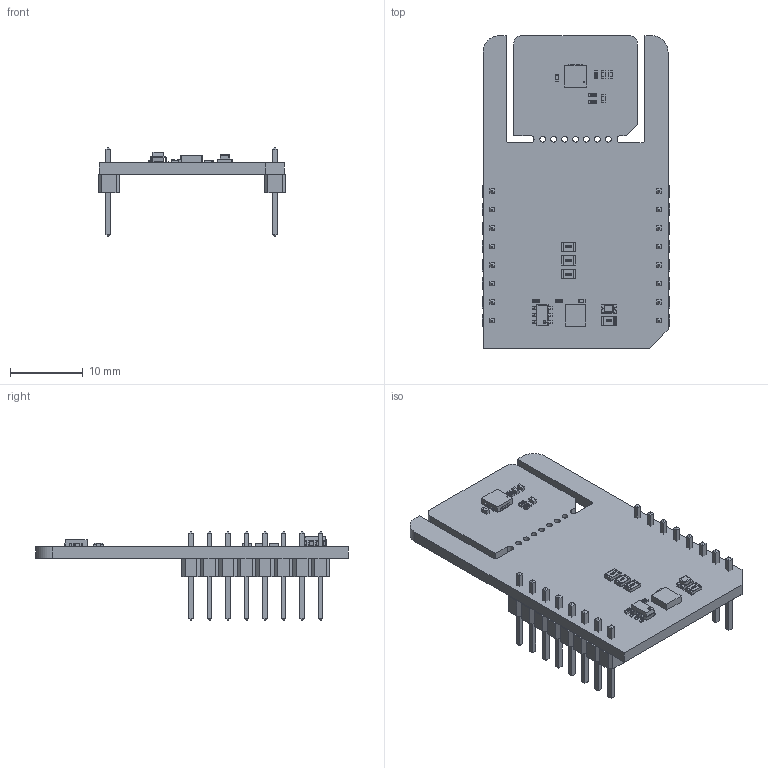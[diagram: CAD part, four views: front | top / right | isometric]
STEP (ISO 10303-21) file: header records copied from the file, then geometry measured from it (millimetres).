
FILE_DESCRIPTION(('Open CASCADE Model'),'2;1');
FILE_NAME('Open CASCADE Shape Model','2025-07-29T12:33:48',('Author'),( 'Open CASCADE'),'Open CASCADE STEP processor 7.5','Open CASCADE 7.5' ,'Unknown');
FILE_SCHEMA(('AUTOMOTIVE_DESIGN { 1 0 10303 214 1 1 1 1 }'));
Length unit declared in the file: millimetre
Products named in the file (36): PCB; Board; Open CASCADE STEP translator 7.5 1.1.1; C2; User Library-SMD CAPACITOR0402; JP3; User Library-R_0805; R6; User Library-R_0402; C5; R5; R2; MBD1; Header 1x8; Free-Models; 1240637040; User_Library-PinHeaderX5-1_PinHeaderX5_Body_1; User_Library-PinHeaderX5-1_PinHeaderX5_Pins_1; U2; User Library-SOT23-6-2; U1; 7528132352; Extruded; C1; LD1; led_0805_green; R1; R3; C4; C3; JP1; JP2; R4; U3; 7304689472
Assembly tree (48 placements, depth 7):
  PCB
    Board
      Open CASCADE STEP translator 7.5 1.1.1
    C2
      User Library-SMD CAPACITOR0402
    JP3
      User Library-R_0805
    R6
      User Library-R_0402
    C5
      User Library-SMD CAPACITOR0402
    R5
      User Library-R_0402
    R2
      User Library-R_0402
    MBD1
      Header 1x8  x2
        PCB
          Free-Models
            1240637040  x2
              User_Library-PinHeaderX5-1_PinHeaderX5_Body_1
              User_Library-PinHeaderX5-1_PinHeaderX5_Pins_1
    U2
      User Library-SOT23-6-2
    U1
      7528132352
        Extruded
    C1
      User Library-SMD CAPACITOR0402
    LD1
      led_0805_green
    R1
      User Library-R_0805
    R3
      User Library-R_0402
    C4
      User Library-SMD CAPACITOR0402
    C3
      User Library-SMD CAPACITOR0402
    JP1
      User Library-R_0805
    JP2
      User Library-R_0805
    R4
      User Library-R_0402
    U3
      7304689472
Bounding box: 25.78 x 42.93 x 12.19 mm (x, y, z)
Volume: 2157.4 mm3; surface area: 3945.2 mm2
Topology: 71 solids, 71 shells, 1820 faces, 4514 edges, 2872 vertices
Faces by surface type: plane 1345, bspline 298, cylinder 131, sphere 46
Full cylindrical faces by diameter (mm): 0.15 x1, 0.8 x7
Entity records: 28049 total; most frequent: CARTESIAN_POINT 7814, ORIENTED_EDGE 3282, DIRECTION 2945, EDGE_CURVE 1641, LINE 1363, VECTOR 1363, VERTEX_POINT 1058, AXIS2_PLACEMENT_3D 791
